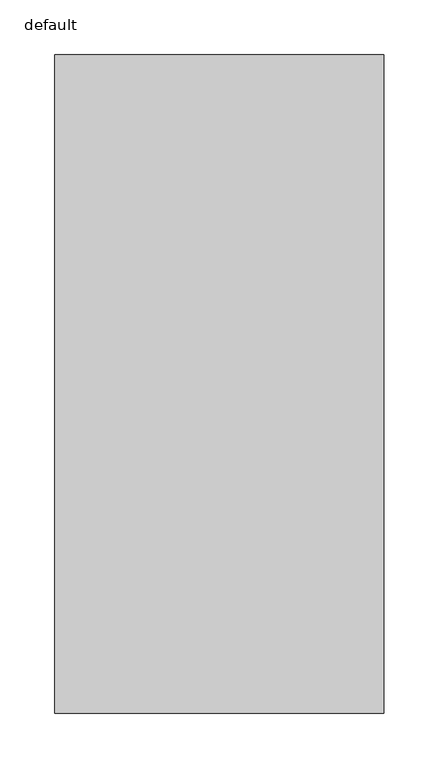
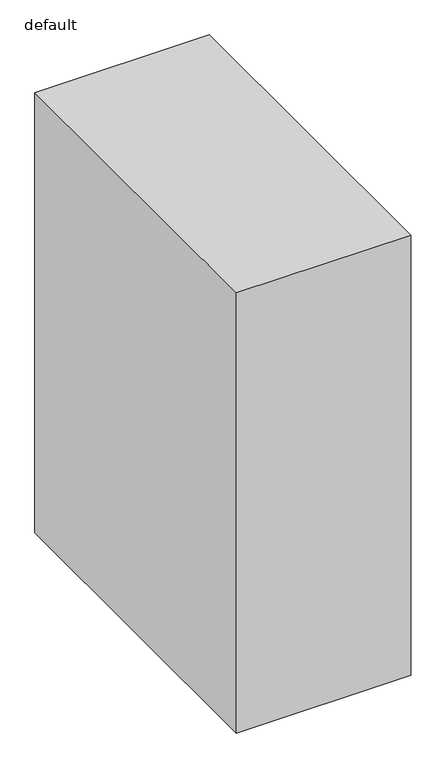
"""IFC4 building model written with IfcOpenShell, lengths in millimetres: furniture geometry, Fu_кухонный напольный модуль_LEG : default."""

from ifc_helpers import new_model, si_unit, origin, origin_with_axes, place, context, project, spatial, polyline, outline, extrude, source, transform, mapped, element, save


def default_8e6d88ca(model_context):
    return source(origin(), model_context, "Body", "SweptSolid", [
        extrude(outline(polyline([(300.0, 0.0), (0.0, 0.0), (0.0, 600.0), (300.0, 600.0), (300.0, 0.0)])), origin_with_axes(), (0.0, 0.0, 1.0), 800.0),
    ])


if __name__ == "__main__":
    model = new_model("IFC4")
    model_context = context("Model", 3, world=origin())
    ifc_project = project(units=[si_unit("LENGTHUNIT", "METRE", prefix="MILLI")], contexts=[model_context])
    site = spatial("IfcSite", under=ifc_project)
    building = spatial("IfcBuilding", under=site)
    placement = place(None, origin())
    default_shape = default_8e6d88ca(model_context)
    element("IfcFurniture", 1, ObjectType="Fu_кухонный напольный модуль_LEG : default", at=placement, inside=building, context=model_context, shape_type="MappedRepresentation", body=[
        mapped(default_shape, transform((0.0, 0.0, 0.0), x_axis=(1.0, 0.0, 0.0), y_axis=(0.0, 1.0, 0.0), z_axis=(0.0, 0.0, 1.0))),
    ])
    save(model, "model.ifc")
